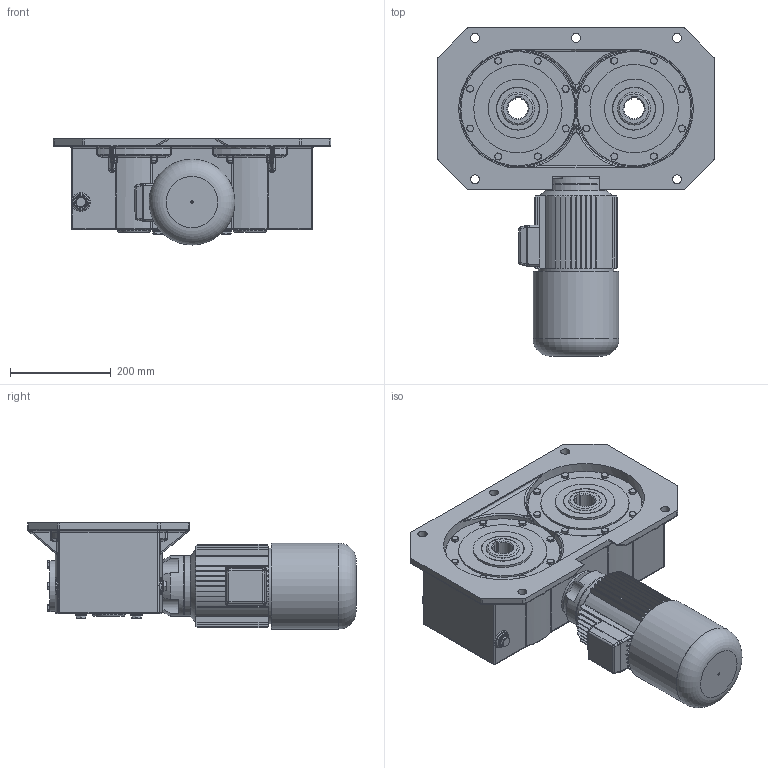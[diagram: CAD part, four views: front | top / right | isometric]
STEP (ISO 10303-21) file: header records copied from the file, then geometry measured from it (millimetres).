
FILE_DESCRIPTION((''),'2;1');
FILE_NAME('Y:\Archivi Inventor\Prog_07\int_230\Figurini\MRV2U_230 x sito\MRV2U_230_80_B14_B.stp','2013-02-14T16:52:08',('tech3'),(''),'Autodesk Inventor 2013','Autodesk Inventor 2013','');
FILE_SCHEMA(('AUTOMOTIVE_DESIGN { 1 0 10303 214 1 1 1 1 }'));
Length unit declared in the file: millimetre
Products named in the file (12): Fig_MRV2U 230; Figurino_Carcassa 230_2U; 0723002; UNI 5739 M8 x 25; 0723009; Figurino_Corona 230_2U; UNI ISO 6194-1 (4) Tipo4 65 x  85 x  10; Tappo3_8 GAS; Guarnizione 3_8 GAS; DIN EN ISO 4762 M8 x 20; motori B14 brake 80; 0105006
Assembly tree (44 placements, depth 2):
  Fig_MRV2U 230
    Figurino_Carcassa 230_2U
    0723002  x2
    UNI 5739 M8 x 25  x20
    0723009
    Figurino_Corona 230_2U  x2
    UNI ISO 6194-1 (4) Tipo4 65 x  85 x  10  x4
    Tappo3_8 GAS  x4
    Guarnizione 3_8 GAS  x4
    DIN EN ISO 4762 M8 x 20  x4
    motori B14 brake 80
    0105006
Bounding box: 550 x 650 x 210 mm (x, y, z)
Volume: 20994962.6 mm3; surface area: 1608643.1 mm2
Topology: 45 solids, 45 shells, 1678 faces, 3844 edges, 2311 vertices
Faces by surface type: plane 766, cylinder 417, cone 210, bspline 138, torus 95, sphere 52
Full cylindrical faces by diameter (mm): 4.917 x4, 5 x1, 6.647 x24, 7 x4, 8 x24, 8.5 x8, 9 x16, 11.63 x20, 13 x4, 13.046 x4, 14 x4, 14.95 x4, 16.3 x4, 18 x5, 19 x1, 22 x8, 25 x4, 33 x3, 60 x1, 65 x4, 71 x4, 72 x4, 75 x1, 80 x5, 85 x8, 100 x2, 101 x1, 117 x2, 120 x2, 149.6 x1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
Entity records: 38479 total; most frequent: CARTESIAN_POINT 12593, DIRECTION 5283, ORIENTED_EDGE 4870, EDGE_CURVE 2435, AXIS2_PLACEMENT_3D 2074, VERTEX_POINT 1543, EDGE_LOOP 1397, VECTOR 1135
